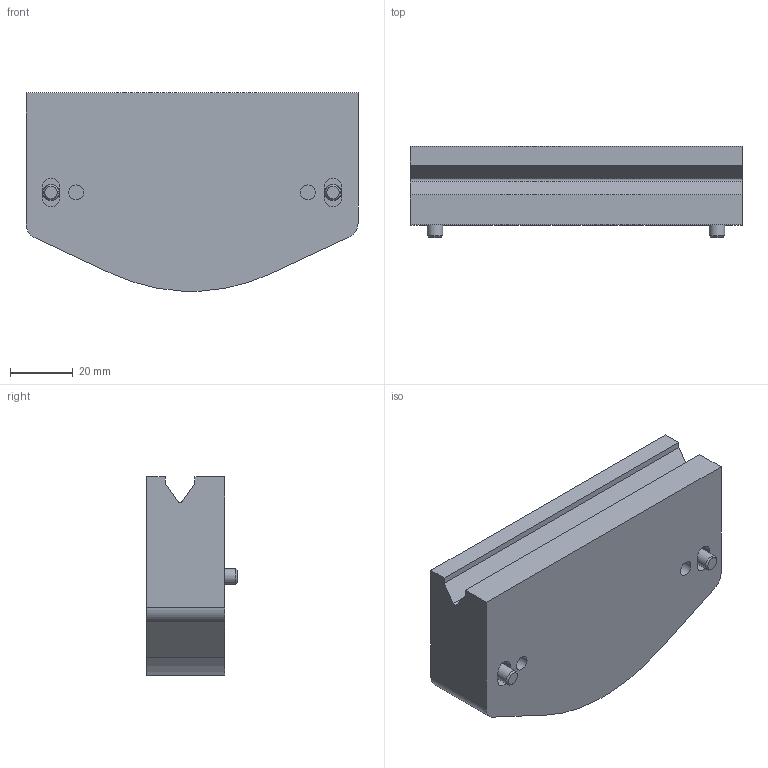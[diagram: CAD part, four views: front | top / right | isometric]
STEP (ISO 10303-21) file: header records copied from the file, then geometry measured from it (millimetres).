
FILE_DESCRIPTION( ( 'STEP AP203' ), '1' );
FILE_NAME( 'p:/temp/worker_135/temp/exporttempdir_3800_556_n0Mkt/format_0/CW580-B.stp', '2021-09-29T07:51:53', ( 'License CC BY-ND 4.0' ), ( 'CADENAS' ), ' ', 'PARTsolutions', ' ' );
FILE_SCHEMA( ( 'CONFIG_CONTROL_DESIGN' ) );
Length unit declared in the file: millimetre
Products named in the file (1): _CW580-B
Bounding box: 106 x 29 x 63.3 mm (x, y, z)
Volume: 141074 mm3; surface area: 23511.9 mm2
Topology: 1 solids, 1 shells, 86 faces, 206 edges, 136 vertices
Faces by surface type: plane 59, cylinder 21, cone 4, sphere 2
Full cylindrical faces by diameter (mm): 4.8 x2, 5 x2, 5.3 x2, 9.01 x2
Entity records: 2466 total; most frequent: DIRECTION 436, CARTESIAN_POINT 411, ORIENTED_EDGE 380, EDGE_CURVE 190, AXIS2_PLACEMENT_3D 159, VERTEX_POINT 134, LINE 118, VECTOR 118
